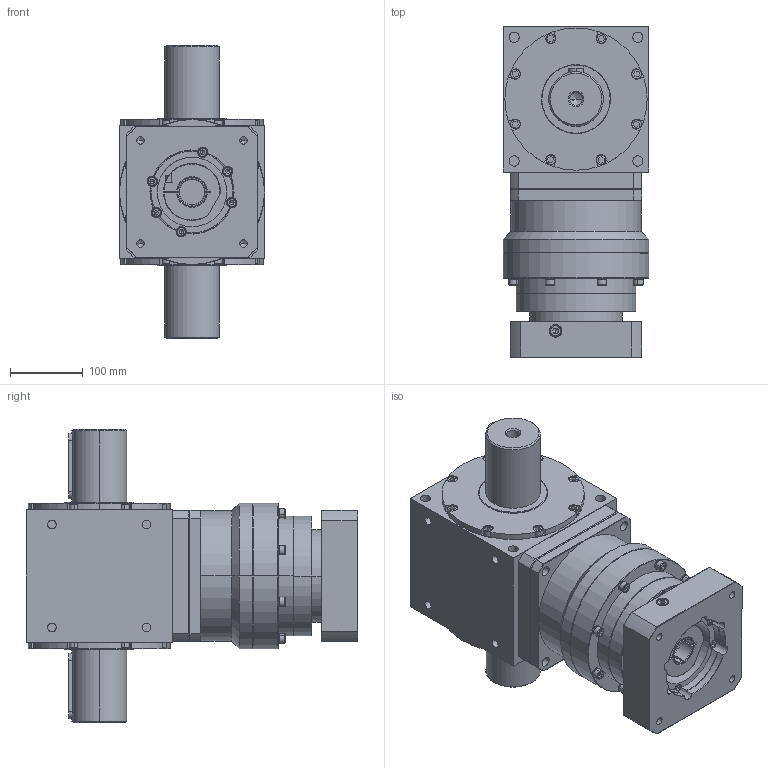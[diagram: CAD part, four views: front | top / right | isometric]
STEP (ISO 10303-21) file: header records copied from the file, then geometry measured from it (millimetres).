
FILE_DESCRIPTION (( 'STEP AP203' ), '1' );
FILE_NAME ('AAW200AS-L2-2P 35-114.3-200-M12.STEP', '2024-12-17T07:18:48', ( '' ), ( '' ), 'SwSTEP 2.0', 'SolidWorks 2021', '' );
FILE_SCHEMA (( 'CONFIG_CONTROL_DESIGN' ));
Length unit declared in the file: millimetre
Products named in the file (3): KS180L2-114.3-35-83-M12-200俋倛芞; AAW200AS-2P; AAW200AS-L2-2P 35-114.3-200-M12
Assembly tree (2 placements, depth 2):
  AAW200AS-L2-2P 35-114.3-200-M12
    AAW200AS-2P
    KS180L2-114.3-35-83-M12-200俋倛芞
Bounding box: 200 x 454.5 x 402 mm (x, y, z)
Volume: 15767067.5 mm3; surface area: 850630.5 mm2
Topology: 45 solids, 45 shells, 1559 faces, 3726 edges, 2329 vertices
Faces by surface type: plane 727, cylinder 576, cone 208, bspline 48
Entity records: 46127 total; most frequent: CARTESIAN_POINT 9391, DIRECTION 7998, ORIENTED_EDGE 7304, EDGE_CURVE 3652, AXIS2_PLACEMENT_3D 3056, VERTEX_POINT 2329, LINE 1886, VECTOR 1886
